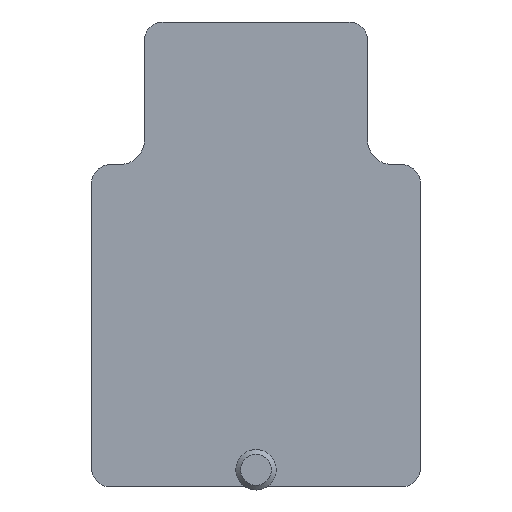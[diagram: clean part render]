
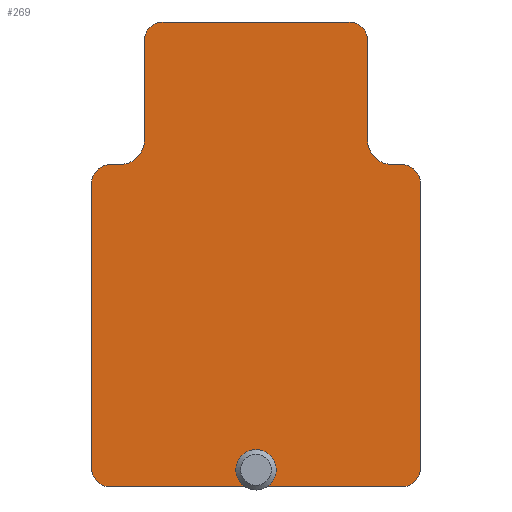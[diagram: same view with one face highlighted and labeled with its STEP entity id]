
A CAD part, top view. The second image highlights one B-rep face of the part: STEP entity #269.
In plain terms, the highlighted planar face has unit normal (0, 0, 1).
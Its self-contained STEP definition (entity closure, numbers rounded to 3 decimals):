
#269=ADVANCED_FACE('',(#312,#313),#297,.T.);
#297=PLANE('',#683);
#312=FACE_BOUND('',#328,.T.);
#313=FACE_BOUND('',#329,.T.);
#328=EDGE_LOOP('',(#404));
#329=EDGE_LOOP('',(#405,#406,#407,#408,#409,#410,#411,#412,#413,#414,#415,
#416,#417,#418,#419,#420));
#371=CIRCLE('',#674,2.5);
#372=CIRCLE('',#675,3.);
#373=CIRCLE('',#676,3.);
#374=CIRCLE('',#677,4.);
#375=CIRCLE('',#678,3.);
#376=CIRCLE('',#679,3.);
#377=CIRCLE('',#680,3.);
#378=CIRCLE('',#681,3.);
#379=CIRCLE('',#682,4.);
#404=ORIENTED_EDGE('',*,*,#559,.F.);
#405=ORIENTED_EDGE('',*,*,#560,.F.);
#406=ORIENTED_EDGE('',*,*,#561,.T.);
#407=ORIENTED_EDGE('',*,*,#562,.F.);
#408=ORIENTED_EDGE('',*,*,#563,.T.);
#409=ORIENTED_EDGE('',*,*,#564,.T.);
#410=ORIENTED_EDGE('',*,*,#565,.T.);
#411=ORIENTED_EDGE('',*,*,#566,.T.);
#412=ORIENTED_EDGE('',*,*,#567,.T.);
#413=ORIENTED_EDGE('',*,*,#568,.F.);
#414=ORIENTED_EDGE('',*,*,#569,.T.);
#415=ORIENTED_EDGE('',*,*,#570,.F.);
#416=ORIENTED_EDGE('',*,*,#571,.T.);
#417=ORIENTED_EDGE('',*,*,#572,.F.);
#418=ORIENTED_EDGE('',*,*,#573,.T.);
#419=ORIENTED_EDGE('',*,*,#574,.F.);
#420=ORIENTED_EDGE('',*,*,#575,.F.);
#518=VERTEX_POINT('',#894);
#519=VERTEX_POINT('',#896);
#520=VERTEX_POINT('',#897);
#521=VERTEX_POINT('',#899);
#522=VERTEX_POINT('',#901);
#523=VERTEX_POINT('',#903);
#524=VERTEX_POINT('',#905);
#525=VERTEX_POINT('',#907);
#526=VERTEX_POINT('',#909);
#527=VERTEX_POINT('',#911);
#528=VERTEX_POINT('',#913);
#529=VERTEX_POINT('',#915);
#530=VERTEX_POINT('',#917);
#531=VERTEX_POINT('',#919);
#532=VERTEX_POINT('',#921);
#533=VERTEX_POINT('',#923);
#534=VERTEX_POINT('',#925);
#559=EDGE_CURVE('',#518,#518,#371,.T.);
#560=EDGE_CURVE('',#519,#520,#607,.T.);
#561=EDGE_CURVE('',#519,#521,#372,.T.);
#562=EDGE_CURVE('',#522,#521,#608,.T.);
#563=EDGE_CURVE('',#522,#523,#373,.T.);
#564=EDGE_CURVE('',#523,#524,#609,.T.);
#565=EDGE_CURVE('',#524,#525,#374,.T.);
#566=EDGE_CURVE('',#525,#526,#610,.T.);
#567=EDGE_CURVE('',#526,#527,#375,.T.);
#568=EDGE_CURVE('',#528,#527,#611,.T.);
#569=EDGE_CURVE('',#528,#529,#376,.T.);
#570=EDGE_CURVE('',#530,#529,#612,.T.);
#571=EDGE_CURVE('',#530,#531,#377,.T.);
#572=EDGE_CURVE('',#532,#531,#613,.T.);
#573=EDGE_CURVE('',#532,#533,#378,.T.);
#574=EDGE_CURVE('',#534,#533,#614,.T.);
#575=EDGE_CURVE('',#520,#534,#379,.T.);
#607=LINE('',#895,#639);
#608=LINE('',#900,#640);
#609=LINE('',#904,#641);
#610=LINE('',#908,#642);
#611=LINE('',#912,#643);
#612=LINE('',#916,#644);
#613=LINE('',#920,#645);
#614=LINE('',#924,#646);
#639=VECTOR('',#749,1.);
#640=VECTOR('',#752,1.);
#641=VECTOR('',#755,1.);
#642=VECTOR('',#758,1.);
#643=VECTOR('',#761,1.);
#644=VECTOR('',#764,1.);
#645=VECTOR('',#767,1.);
#646=VECTOR('',#770,1.);
#674=AXIS2_PLACEMENT_3D('',#893,#747,#748);
#675=AXIS2_PLACEMENT_3D('',#898,#750,#751);
#676=AXIS2_PLACEMENT_3D('',#902,#753,#754);
#677=AXIS2_PLACEMENT_3D('',#906,#756,#757);
#678=AXIS2_PLACEMENT_3D('',#910,#759,#760);
#679=AXIS2_PLACEMENT_3D('',#914,#762,#763);
#680=AXIS2_PLACEMENT_3D('',#918,#765,#766);
#681=AXIS2_PLACEMENT_3D('',#922,#768,#769);
#682=AXIS2_PLACEMENT_3D('',#926,#771,#772);
#683=AXIS2_PLACEMENT_3D('',#927,#773,#774);
#747=DIRECTION('',(0.,0.,1.));
#748=DIRECTION('',(1.,0.,0.));
#749=DIRECTION('',(0.,-1.,0.));
#750=DIRECTION('',(0.,0.,1.));
#751=DIRECTION('',(1.,0.,0.));
#752=DIRECTION('',(1.,0.,0.));
#753=DIRECTION('',(0.,0.,1.));
#754=DIRECTION('',(1.,0.,0.));
#755=DIRECTION('',(0.,-1.,0.));
#756=DIRECTION('',(0.,0.,-1.));
#757=DIRECTION('',(1.,0.,0.));
#758=DIRECTION('',(-1.,0.,0.));
#759=DIRECTION('',(0.,0.,1.));
#760=DIRECTION('',(1.,0.,0.));
#761=DIRECTION('',(0.,1.,0.));
#762=DIRECTION('',(0.,0.,1.));
#763=DIRECTION('',(1.,0.,0.));
#764=DIRECTION('',(-1.,0.,0.));
#765=DIRECTION('',(0.,0.,1.));
#766=DIRECTION('',(1.,0.,0.));
#767=DIRECTION('',(0.,-1.,0.));
#768=DIRECTION('',(0.,0.,1.));
#769=DIRECTION('',(1.,0.,0.));
#770=DIRECTION('',(1.,0.,0.));
#771=DIRECTION('',(0.,0.,1.));
#772=DIRECTION('',(-1.,0.,0.));
#773=DIRECTION('',(0.,0.,1.));
#774=DIRECTION('',(1.,0.,0.));
#893=CARTESIAN_POINT('',(0.,-21.65,13.998));
#894=CARTESIAN_POINT('',(2.5,-21.65,13.998));
#895=CARTESIAN_POINT('',(18.,57.6,13.998));
#896=CARTESIAN_POINT('',(18.,47.6,13.998));
#897=CARTESIAN_POINT('',(18.,31.6,13.998));
#898=CARTESIAN_POINT('',(15.,47.6,13.998));
#899=CARTESIAN_POINT('',(15.,50.6,13.998));
#900=CARTESIAN_POINT('',(0.,50.6,13.998));
#901=CARTESIAN_POINT('',(-15.,50.6,13.998));
#902=CARTESIAN_POINT('',(-15.,47.6,13.998));
#903=CARTESIAN_POINT('',(-18.,47.6,13.998));
#904=CARTESIAN_POINT('',(-18.,57.6,13.998));
#905=CARTESIAN_POINT('',(-18.,31.6,13.998));
#906=CARTESIAN_POINT('',(-22.,31.6,13.998));
#907=CARTESIAN_POINT('',(-22.,27.6,13.998));
#908=CARTESIAN_POINT('',(-22.,27.6,13.998));
#909=CARTESIAN_POINT('',(-23.5,27.6,13.998));
#910=CARTESIAN_POINT('',(-23.5,24.6,13.998));
#911=CARTESIAN_POINT('',(-26.5,24.6,13.998));
#912=CARTESIAN_POINT('',(-26.5,13.1,13.998));
#913=CARTESIAN_POINT('',(-26.5,-21.4,13.998));
#914=CARTESIAN_POINT('',(-23.5,-21.4,13.998));
#915=CARTESIAN_POINT('',(-23.5,-24.4,13.998));
#916=CARTESIAN_POINT('',(0.,-24.4,13.998));
#917=CARTESIAN_POINT('',(23.5,-24.4,13.998));
#918=CARTESIAN_POINT('',(23.5,-21.4,13.998));
#919=CARTESIAN_POINT('',(26.5,-21.4,13.998));
#920=CARTESIAN_POINT('',(26.5,13.1,13.998));
#921=CARTESIAN_POINT('',(26.5,24.6,13.998));
#922=CARTESIAN_POINT('',(23.5,24.6,13.998));
#923=CARTESIAN_POINT('',(23.5,27.6,13.998));
#924=CARTESIAN_POINT('',(22.,27.6,13.998));
#925=CARTESIAN_POINT('',(22.,27.6,13.998));
#926=CARTESIAN_POINT('',(22.,31.6,13.998));
#927=CARTESIAN_POINT('',(0.,13.1,13.998));
